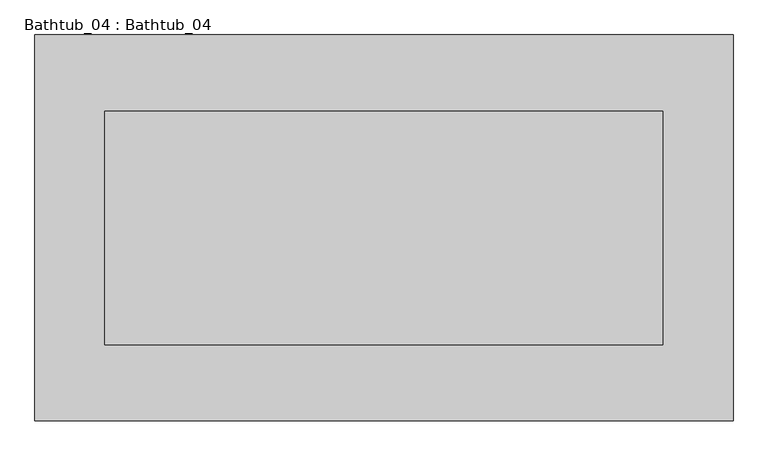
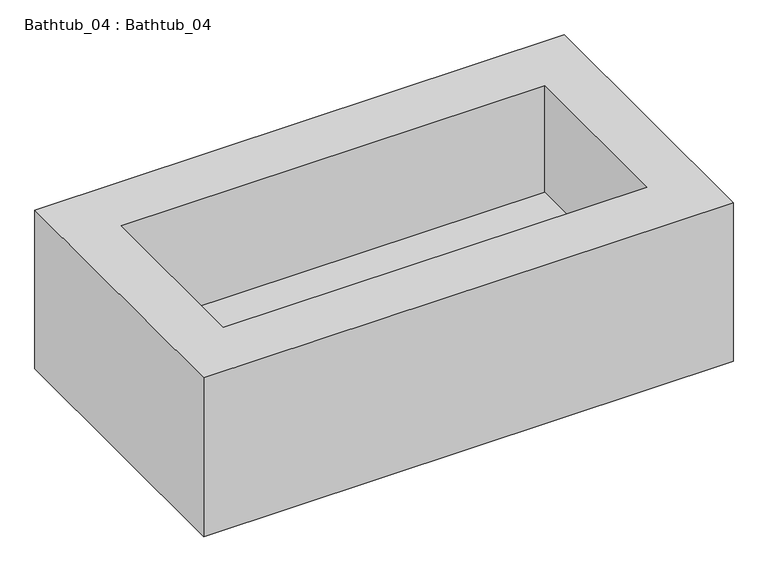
"""IFC4 building model written with IfcOpenShell, lengths in millimetres: flow terminal geometry, Bathtub_04 : Bathtub_04."""

import ifcopenshell
import ifcopenshell.guid

model = None  # the IFC model being written
_history = None  # IfcOwnerHistory: only IFC2X3 demands one
_inside = {}  # id of a spatial element -> (the spatial element, [elements in it])
_under = {}  # id of a project, library or spatial element -> (it, [spatial elements below it])
_declared = {}  # id of a project -> (the project, [libraries it declares])
_typed = {}  # id of a type object -> (the type object, [elements of that type])
_made_of = {}  # id of a material, layer set ... -> (it, [elements and type objects made of it])


def new_model(schema):
    """Start an empty IFC model of exactly this schema.

    Asked for "IFC4X3", IfcOpenShell would pick the latest addendum, in which some entities
    have other attributes; the version numbers below select the first issue.
    IFC2X3 requires an IfcOwnerHistory on every rooted entity: one is made here for all.
    """
    global model, _history
    if schema == "IFC4X3":
        model = ifcopenshell.file(schema_version=(4, 3, 0, 0))
    else:
        model = ifcopenshell.file(schema=schema)
    _inside.clear()
    _under.clear()
    _declared.clear()
    _typed.clear()
    _made_of.clear()
    _history = None
    if model.schema == "IFC2X3":
        org = make("IfcOrganization", Name="unknown")
        user = make(
            "IfcPersonAndOrganization",
            ThePerson=make("IfcPerson", FamilyName="unknown"),
            TheOrganization=org,
        )
        app = make(
            "IfcApplication",
            ApplicationDeveloper=org,
            Version="unknown",
            ApplicationFullName="unknown",
            ApplicationIdentifier="unknown",
        )
        _history = make(
            "IfcOwnerHistory",
            OwningUser=user,
            OwningApplication=app,
            ChangeAction="ADDED",
            CreationDate=0,
        )
    return model


def make(cls, **values):
    """One entity of the class cls with the attributes given. An attribute that is None is left unset."""
    return model.create_entity(
        cls, **{name: value for name, value in values.items() if value is not None}
    )


def rooted(cls, **values):
    """An entity with a GlobalId (a new one), such as an element, a storey or a relation."""
    return make(cls, GlobalId=ifcopenshell.guid.new(), OwnerHistory=_history, **values)


def si_unit(unit_type, name, prefix=None):
    """IfcSIUnit, for example si_unit("LENGTHUNIT", "METRE", prefix="MILLI")."""
    return make("IfcSIUnit", UnitType=unit_type, Prefix=prefix, Name=name)


def assignment(units):
    """IfcUnitAssignment: the units of a project."""
    return None if units is None else make("IfcUnitAssignment", Units=units)


def point(xyz):
    """IfcCartesianPoint."""
    return None if xyz is None else make("IfcCartesianPoint", Coordinates=xyz)


def direction(xyz):
    """IfcDirection."""
    return None if xyz is None else make("IfcDirection", DirectionRatios=xyz)


def frame(location, z_axis=None, x_axis=None):
    """IfcAxis2Placement3D, a coordinate frame: its origin and axes. An axis left out is left unset."""
    return make(
        "IfcAxis2Placement3D",
        Location=point(location),
        Axis=direction(z_axis),
        RefDirection=direction(x_axis),
    )


def origin():
    """The frame at (0, 0, 0) with its axes left unset."""
    return frame((0.0, 0.0, 0.0))


def place(relative_to, where):
    """IfcLocalPlacement: puts the frame where relative to a parent placement (None: the world)."""
    return make(
        "IfcLocalPlacement", PlacementRelTo=relative_to, RelativePlacement=where
    )


def context(
    kind, dimensions, precision=None, world=None, true_north=None, identifier=None
):
    """IfcGeometricRepresentationContext, for example the 3D "Model" context."""
    return make(
        "IfcGeometricRepresentationContext",
        ContextIdentifier=identifier,
        ContextType=kind,
        CoordinateSpaceDimension=dimensions,
        Precision=precision,
        WorldCoordinateSystem=world,
        TrueNorth=true_north,
    )


def project(units=None, contexts=None):
    """IfcProject with its units and contexts."""
    return rooted(
        "IfcProject",
        Name="project",
        RepresentationContexts=contexts,
        UnitsInContext=assignment(units),
    )


def spatial(cls, under=None, at=None, **own):
    """A site, building, storey or space (cls), placed at a placement, below another one or the project."""
    s = rooted(cls, ObjectPlacement=at, **own)
    if under is not None:
        _under.setdefault(under.id(), (under, []))[1].append(s)
    return s


def faces_of(points, faces, orient=None, outer=None):
    """IfcFace entities. A face is a list of loops; a loop is a list of indices into points, from 0.

    orient and outer hold one flag for each loop. By default every Orientation is true, the
    first loop of a face is its IfcFaceOuterBound and the others are IfcFaceBound.
    """
    made = []
    for i, loops in enumerate(faces):
        bounds = []
        for j, loop in enumerate(loops):
            is_outer = j == 0 if outer is None else outer[i][j]
            bounds.append(
                make(
                    "IfcFaceOuterBound" if is_outer else "IfcFaceBound",
                    Bound=make("IfcPolyLoop", Polygon=[points[k] for k in loop]),
                    Orientation=True if orient is None else orient[i][j],
                )
            )
        made.append(make("IfcFace", Bounds=bounds))
    return made


def faceted_brep(points, faces, orient=None, outer=None, voids=None):
    """IfcFacetedBrep: a solid bounded by flat faces; with voids (closed shells), ...WithVoids."""
    shared = [point(p) for p in points]
    hull = make("IfcClosedShell", CfsFaces=faces_of(shared, faces, orient, outer))
    if voids is None:
        return make("IfcFacetedBrep", Outer=hull)
    return make(
        "IfcFacetedBrepWithVoids",
        Outer=hull,
        Voids=[
            make(cls, CfsFaces=faces_of(shared, fs, o, b)) for cls, fs, o, b in voids
        ],
    )


def shape(context_of_items, identifier, shape_type, items):
    """IfcShapeRepresentation: the items that make up one representation, for example the "Body"."""
    return make(
        "IfcShapeRepresentation",
        ContextOfItems=context_of_items,
        RepresentationIdentifier=identifier,
        RepresentationType=shape_type,
        Items=items,
    )


def source(mapping_origin, context_of_items, identifier, shape_type, items):
    """IfcRepresentationMap: a shape defined once, which mapped items show again and again."""
    return make(
        "IfcRepresentationMap",
        MappingOrigin=mapping_origin,
        MappedRepresentation=shape(context_of_items, identifier, shape_type, items),
    )


def transform(
    local_origin,
    x_axis=None,
    y_axis=None,
    z_axis=None,
    scale=None,
    scale2=None,
    scale3=None,
    uniform=True,
):
    """IfcCartesianTransformationOperator3D, or its non-uniform kind. x_axis, y_axis, z_axis: its Axis1, 2, 3."""
    if uniform:
        return make(
            "IfcCartesianTransformationOperator3D",
            Axis1=direction(x_axis),
            Axis2=direction(y_axis),
            LocalOrigin=point(local_origin),
            Scale=scale,
            Axis3=direction(z_axis),
        )
    return make(
        "IfcCartesianTransformationOperator3DnonUniform",
        Axis1=direction(x_axis),
        Axis2=direction(y_axis),
        LocalOrigin=point(local_origin),
        Scale=scale,
        Axis3=direction(z_axis),
        Scale2=scale2,
        Scale3=scale3,
    )


def mapped(mapping_source, mapping_target):
    """IfcMappedItem: shows the shape of a source again, moved by a transform."""
    return make(
        "IfcMappedItem", MappingSource=mapping_source, MappingTarget=mapping_target
    )


def made_of(thing, what):
    """Note that an element or type object is made of a material, layer set ...; save() writes the relation."""
    if what is not None:
        _made_of.setdefault(what.id(), (what, []))[1].append(thing)
    return thing


def element(
    cls,
    number,
    at=None,
    inside=None,
    cuts=None,
    type_object=None,
    material=None,
    context=None,
    identifier="Body",
    shape_type=None,
    held_by="IfcProductDefinitionShape",
    body=None,
    shapes=None,
    **own,
):
    """One element of the class cls, such as IfcWall. Its Tag is "e" and its number.

    at: its placement. inside: the storey or other place that contains it. cuts: it is an
    opening in that element (IfcRelVoidsElement). A single representation is given by context,
    identifier, shape_type and body (its items); several are given by shapes. held_by: the class
    of the entity that holds the representations. save() writes the other relations.
    """
    e = rooted(cls, Tag="e%d" % number, ObjectPlacement=at, **own)
    if body is not None:
        shapes = [shape(context, identifier, shape_type, body)]
    if shapes is not None:
        e.Representation = make(held_by, Representations=shapes)
    if inside is not None:
        _inside.setdefault(inside.id(), (inside, []))[1].append(e)
    if cuts is not None:
        rooted(
            "IfcRelVoidsElement", RelatingBuildingElement=cuts, RelatedOpeningElement=e
        )
    if type_object is not None:
        _typed.setdefault(type_object.id(), (type_object, []))[1].append(e)
    return made_of(e, material)


def aggregate(whole, parts):
    """IfcRelAggregates: a whole, such as a stair, and the parts it consists of."""
    return rooted("IfcRelAggregates", RelatingObject=whole, RelatedObjects=parts)


def save(model, path):
    """Write the relations noted so far, then the file.

    IfcRelAggregates (storeys below a building ...), IfcRelContainedInSpatialStructure (elements
    in a storey), IfcRelDefinesByType, IfcRelAssociatesMaterial and IfcRelDeclares: one each for
    every whole, place, type object, material and project.
    """
    for whole, parts in _under.values():
        aggregate(whole, parts)
    for where, things in _inside.values():
        rooted(
            "IfcRelContainedInSpatialStructure",
            RelatedElements=things,
            RelatingStructure=where,
        )
    for kind, things in _typed.values():
        rooted("IfcRelDefinesByType", RelatedObjects=things, RelatingType=kind)
    for what, things in _made_of.values():
        rooted("IfcRelAssociatesMaterial", RelatedObjects=things, RelatingMaterial=what)
    for by, libraries in _declared.values():
        rooted("IfcRelDeclares", RelatingContext=by, RelatedDefinitions=libraries)
    model.write(path)


def bathtub_04_bathtub_04_b9b0860f(model_context):
    return source(origin(), model_context, "Body", "Brep", [
        faceted_brep([(-5844.6139704, -161.1735117, 7112.4168802), (-7745.5019919, -161.1735117, 7112.4168802), (-7745.5019919, -1211.1735117, 7112.4168802), (-5844.6139704, -1211.1735117, 7112.4168802), (-7555.6571003, -369.4801931, 7112.4168802), (-6035.6571003, -369.4801931, 7112.4168802), (-6035.6571003, -1004.2179218, 7112.4168802), (-7555.6571003, -1004.2179218, 7112.4168802), (-5844.6139704, -161.1735117, 6510.0), (-5844.6139704, -1211.1735117, 6510.0), (-7745.5019919, -1211.1735117, 6510.0), (-7745.5019919, -161.1735117, 6510.0), (-6035.6571003, -369.4801931, 6709.1495852), (-7555.6571003, -369.4801931, 6709.1495852), (-7555.6571003, -1004.2179218, 6709.1495852), (-6035.6571003, -1004.2179218, 6709.1495852)], [[[0, 1, 2, 3], [4, 5, 6, 7]], [[8, 9, 10, 11]], [[1, 0, 8, 11]], [[2, 1, 11, 10]], [[3, 2, 10, 9]], [[0, 3, 9, 8]], [[12, 13, 14, 15]], [[13, 12, 5, 4]], [[14, 13, 4, 7]], [[15, 14, 7, 6]], [[12, 15, 6, 5]]]),
    ])


if __name__ == "__main__":
    model = new_model("IFC4")
    model_context = context("Model", 3, world=origin())
    ifc_project = project(units=[si_unit("LENGTHUNIT", "METRE", prefix="MILLI")], contexts=[model_context])
    site = spatial("IfcSite", under=ifc_project)
    building = spatial("IfcBuilding", under=site)
    placement = place(None, origin())
    bathtub_04_bathtub_04_shape = bathtub_04_bathtub_04_b9b0860f(model_context)
    element("IfcFlowTerminal", 1, ObjectType="Bathtub_04 : Bathtub_04", at=placement, inside=building, context=model_context, shape_type="MappedRepresentation", body=[
        mapped(bathtub_04_bathtub_04_shape, transform((0.0, 0.0, 0.0), x_axis=(1.0, 0.0, 0.0), y_axis=(0.0, 1.0, 0.0), z_axis=(0.0, 0.0, 1.0))),
    ])
    save(model, "model.ifc")
